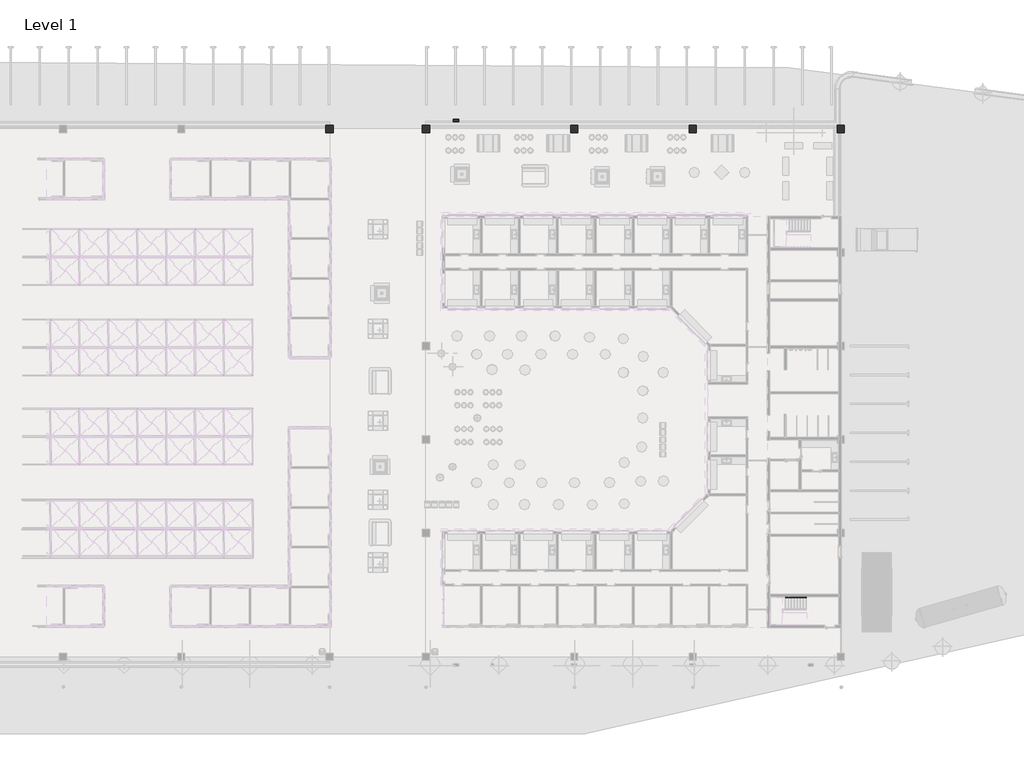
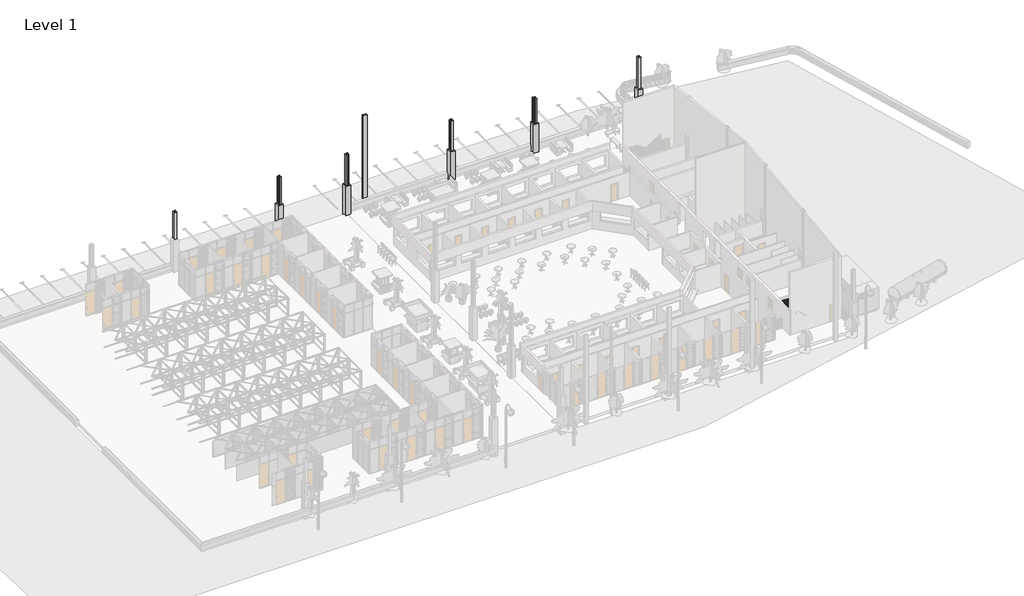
# One storey, part 27 of 32: 12 columns, 1 railing.
"""IFC4 building model written with IfcOpenShell, lengths in millimetres."""

from ifc_helpers import new_model, si_unit, point, frame, frame_2d, origin, place, context, project, spatial, polyline, circle_curve, trimmed, segment, composite_curve, outline, extrude, faceted_brep, transform, mapped, element, save
from components import columns_rectangular_450x450mm_c38d5eef

model = new_model("IFC4")

# Units and contexts
model_context = context("Model", 3, world=origin())
ifc_project = project(units=[si_unit("LENGTHUNIT", "METRE", prefix="MILLI")], contexts=[model_context])

# Site, building, storey
site = spatial("IfcSite", under=ifc_project)
building = spatial("IfcBuilding", under=site)
storey = spatial("IfcBuildingStorey", under=building, Name="Level 1", Elevation=2800.0)

# Columns
placement = place(None, origin())
element("IfcColumn", 1, ObjectType="Column Concrete-Square (M) : 600 x 600mm", at=placement, inside=storey, context=model_context, shape_type="SweptSolid", body=[
    extrude(outline(polyline([(2000.0, -12500.7705062), (6400.0, -12500.7705062), (6400.0, -13100.7705062), (2800.0, -13100.7705062), (2800.0, -12651.1260274), (2000.0, -12651.1260274), (2000.0, -12500.7705062)])), frame((0.0, 7694.0800404, 0.0), z_axis=(0.0, 1.0, 0.0), x_axis=(0.0, 0.0, 1.0)), (0.0, 0.0, 1.0), 600.0),
])
element("IfcColumn", 2, ObjectType="Column Concrete-Square (M) : 600 x 600mm", at=placement, inside=storey, context=model_context, shape_type="SweptSolid", body=[
    extrude(outline(polyline([(7694.0800404, 6400.0), (8294.0800404, 6400.0), (8294.0800404, 2800.0), (7994.0800404, 2800.0), (7994.0800404, 2000.0), (7694.0800404, 2000.0), (7694.0800404, 6400.0)])), frame((-25400.7705062, 0.0, 0.0), z_axis=(1.0, 0.0, 0.0), x_axis=(0.0, 1.0, 0.0)), (0.0, 0.0, 1.0), 600.0),
])
element("IfcColumn", 3, ObjectType="Column Concrete-Square (M) : 600 x 600mm", at=placement, inside=storey, context=model_context, shape_type="SweptSolid", body=[
    extrude(outline(polyline([(7694.0800404, 6400.0), (8294.0800404, 6400.0), (8294.0800404, 2800.0), (7994.0800404, 2800.0), (7994.0800404, 2000.0), (7694.0800404, 2000.0), (7694.0800404, 6400.0)])), frame((-35230.3056755, 0.0, 0.0), z_axis=(1.0, 0.0, 0.0), x_axis=(0.0, 1.0, 0.0)), (0.0, 0.0, 1.0), 600.0),
])
element("IfcColumn", 4, ObjectType="Column Concrete-Square (M) : 600 x 600mm", at=placement, inside=storey, context=model_context, shape_type="Brep", body=[
    faceted_brep([(-47530.3056755, 7694.0800404, 2000.0), (-47530.3056755, 8294.0800404, 2000.0), (-47230.3056755, 8294.0800404, 2000.0), (-47230.3056755, 7994.0800404, 2000.0), (-46930.3056755, 7994.0800404, 2000.0), (-46930.3056755, 7694.0800404, 2000.0), (-47530.3056755, 7694.0800404, 6400.0), (-47530.3056755, 8294.0800404, 6400.0), (-46930.3056755, 8294.0800404, 6400.0), (-46930.3056755, 8294.0800404, 2800.0), (-47230.3056755, 8294.0800404, 2800.0), (-46930.3056755, 7694.0800404, 6400.0), (-46930.3056755, 7994.0800404, 2800.0), (-47230.3056755, 7994.0800404, 2800.0)], [[[0, 1, 2, 3, 4, 5]], [[1, 0, 6, 7]], [[1, 7, 8, 9, 10, 2]], [[8, 11, 5, 4, 12, 9]], [[0, 5, 11, 6]], [[7, 6, 11, 8]], [[3, 13, 12, 4]], [[12, 13, 10, 9]], [[13, 3, 2, 10]]]),
])
element("IfcColumn", 5, ObjectType="Column Concrete-Square (M) : 600 x 600mm", at=placement, inside=storey, context=model_context, shape_type="Brep", body=[
    faceted_brep([(-54930.3056755, 8294.0800404, 2000.0), (-54930.3056755, 7694.0800404, 2000.0), (-55530.3056755, 7694.0800404, 2000.0), (-55530.3056755, 7978.5855015, 2000.0), (-55230.3056755, 7978.5855015, 2000.0), (-55230.3056755, 8294.0800404, 2000.0), (-54930.3056755, 8294.0800404, 6800.0), (-54930.3056755, 7694.0800404, 6800.0), (-55230.3056755, 8294.0800404, 2800.0), (-55530.3056755, 8294.0800404, 2800.0), (-55530.3056755, 8294.0800404, 6800.0), (-55530.3056755, 7694.0800404, 6800.0), (-55530.3056755, 7978.5855015, 2800.0), (-55230.3056755, 7978.5855015, 2800.0)], [[[0, 1, 2, 3, 4, 5]], [[1, 0, 6, 7]], [[6, 0, 5, 8, 9, 10]], [[11, 10, 9, 12, 3, 2]], [[2, 1, 7, 11]], [[7, 6, 10, 11]], [[12, 13, 4, 3]], [[13, 12, 9, 8]], [[4, 13, 8, 5]]]),
])
columns_rectangular_450x450mm_shape = columns_rectangular_450x450mm_c38d5eef(model_context)
element("IfcColumn", 6, ObjectType="Columns_Rectangular : 450x450mm", at=placement, inside=storey, context=model_context, shape_type="MappedRepresentation", body=[
    mapped(columns_rectangular_450x450mm_shape, transform((-44730.3056755, 8696.9943842, 0.0), x_axis=(0.0, -1.0, 0.0), y_axis=(1.0, 0.0, 0.0), z_axis=(0.0, 0.0, 1.0))),
])
element("IfcColumn", 7, ObjectType="UC-Universal Columns-Column : UC305x305x97", at=placement, inside=storey, context=model_context, shape_type="SweptSolid", body=[
    extrude(outline(composite_curve([segment(polyline([(-25253.4205062, 7840.1300404), (-25253.4205062, 7855.5300404), (-25120.9205062, 7855.5300404)]), True, "CONTINUOUS"), segment(trimmed(circle_curve(frame_2d((-25120.9205062, 7870.7300404)), 15.2), [point((-25120.9205062, 7855.5300404))], [point((-25105.7205062, 7870.7300404))], True, "CARTESIAN"), True, "CONTINUOUS"), segment(polyline([(-25105.7205062, 7870.7300404), (-25105.7205062, 8117.4300404)]), True, "CONTINUOUS"), segment(trimmed(circle_curve(frame_2d((-25120.9205062, 8117.4300404)), 15.2), [point((-25105.7205062, 8117.4300404))], [point((-25120.9205062, 8132.6300404))], True, "CARTESIAN"), True, "CONTINUOUS"), segment(polyline([(-25120.9205062, 8132.6300404), (-25253.4205062, 8132.6300404), (-25253.4205062, 8148.0300404), (-24948.1205062, 8148.0300404), (-24948.1205062, 8132.6300404), (-25080.6205062, 8132.6300404)]), True, "CONTINUOUS"), segment(trimmed(circle_curve(frame_2d((-25080.6205062, 8117.4300404)), 15.2), [point((-25080.6205062, 8132.6300404))], [point((-25095.8205062, 8117.4300404))], True, "CARTESIAN"), True, "CONTINUOUS"), segment(polyline([(-25095.8205062, 8117.4300404), (-25095.8205062, 7870.7300404)]), True, "CONTINUOUS"), segment(trimmed(circle_curve(frame_2d((-25080.6205062, 7870.7300404)), 15.2), [point((-25095.8205062, 7870.7300404))], [point((-25080.6205062, 7855.5300404))], True, "CARTESIAN"), True, "CONTINUOUS"), segment(polyline([(-25080.6205062, 7855.5300404), (-24948.1205062, 7855.5300404), (-24948.1205062, 7840.1300404), (-25253.4205062, 7840.1300404)]), True, "CONTINUOUS")], self_intersect=False)), frame((0.0, 0.0, 2800.0), z_axis=(0.0, 0.0, 1.0), x_axis=(1.0, 0.0, 0.0)), (0.0, 0.0, 1.0), 6681.2053511),
])
element("IfcColumn", 8, ObjectType="UC-Universal Columns-Column : UC305x305x97", at=placement, inside=storey, context=model_context, shape_type="SweptSolid", body=[
    extrude(outline(composite_curve([segment(polyline([(-35082.9556755, 7840.1300404), (-35082.9556755, 7855.5300404), (-34950.4556755, 7855.5300404)]), True, "CONTINUOUS"), segment(trimmed(circle_curve(frame_2d((-34950.4556755, 7870.7300404)), 15.2), [point((-34950.4556755, 7855.5300404))], [point((-34935.2556755, 7870.7300404))], True, "CARTESIAN"), True, "CONTINUOUS"), segment(polyline([(-34935.2556755, 7870.7300404), (-34935.2556755, 8117.4300404)]), True, "CONTINUOUS"), segment(trimmed(circle_curve(frame_2d((-34950.4556755, 8117.4300404)), 15.2), [point((-34935.2556755, 8117.4300404))], [point((-34950.4556755, 8132.6300404))], True, "CARTESIAN"), True, "CONTINUOUS"), segment(polyline([(-34950.4556755, 8132.6300404), (-35082.9556755, 8132.6300404), (-35082.9556755, 8148.0300404), (-34777.6556755, 8148.0300404), (-34777.6556755, 8132.6300404), (-34910.1556755, 8132.6300404)]), True, "CONTINUOUS"), segment(trimmed(circle_curve(frame_2d((-34910.1556755, 8117.4300404)), 15.2), [point((-34910.1556755, 8132.6300404))], [point((-34925.3556755, 8117.4300404))], True, "CARTESIAN"), True, "CONTINUOUS"), segment(polyline([(-34925.3556755, 8117.4300404), (-34925.3556755, 7870.7300404)]), True, "CONTINUOUS"), segment(trimmed(circle_curve(frame_2d((-34910.1556755, 7870.7300404)), 15.2), [point((-34925.3556755, 7870.7300404))], [point((-34910.1556755, 7855.5300404))], True, "CARTESIAN"), True, "CONTINUOUS"), segment(polyline([(-34910.1556755, 7855.5300404), (-34777.6556755, 7855.5300404), (-34777.6556755, 7840.1300404), (-35082.9556755, 7840.1300404)]), True, "CONTINUOUS")], self_intersect=False)), frame((0.0, 0.0, 2800.0), z_axis=(0.0, 0.0, 1.0), x_axis=(1.0, 0.0, 0.0)), (0.0, 0.0, 1.0), 7354.3836621),
])
element("IfcColumn", 9, ObjectType="UC-Universal Columns-Column : UC305x305x97", at=placement, inside=storey, context=model_context, shape_type="SweptSolid", body=[
    extrude(outline(composite_curve([segment(polyline([(-47382.9556755, 7840.1300404), (-47382.9556755, 7855.5300404), (-47250.4556755, 7855.5300404)]), True, "CONTINUOUS"), segment(trimmed(circle_curve(frame_2d((-47250.4556755, 7870.7300404)), 15.2), [point((-47250.4556755, 7855.5300404))], [point((-47235.2556755, 7870.7300404))], True, "CARTESIAN"), True, "CONTINUOUS"), segment(polyline([(-47235.2556755, 7870.7300404), (-47235.2556755, 8117.4300404)]), True, "CONTINUOUS"), segment(trimmed(circle_curve(frame_2d((-47250.4556755, 8117.4300404)), 15.2), [point((-47235.2556755, 8117.4300404))], [point((-47250.4556755, 8132.6300404))], True, "CARTESIAN"), True, "CONTINUOUS"), segment(polyline([(-47250.4556755, 8132.6300404), (-47382.9556755, 8132.6300404), (-47382.9556755, 8148.0300404), (-47077.6556755, 8148.0300404), (-47077.6556755, 8132.6300404), (-47210.1556755, 8132.6300404)]), True, "CONTINUOUS"), segment(trimmed(circle_curve(frame_2d((-47210.1556755, 8117.4300404)), 15.2), [point((-47210.1556755, 8132.6300404))], [point((-47225.3556755, 8117.4300404))], True, "CARTESIAN"), True, "CONTINUOUS"), segment(polyline([(-47225.3556755, 8117.4300404), (-47225.3556755, 7870.7300404)]), True, "CONTINUOUS"), segment(trimmed(circle_curve(frame_2d((-47210.1556755, 7870.7300404)), 15.2), [point((-47225.3556755, 7870.7300404))], [point((-47210.1556755, 7855.5300404))], True, "CARTESIAN"), True, "CONTINUOUS"), segment(polyline([(-47210.1556755, 7855.5300404), (-47077.6556755, 7855.5300404), (-47077.6556755, 7840.1300404), (-47382.9556755, 7840.1300404)]), True, "CONTINUOUS")], self_intersect=False)), frame((0.0, 0.0, 2800.0), z_axis=(0.0, 0.0, 1.0), x_axis=(1.0, 0.0, 0.0)), (0.0, 0.0, 1.0), 7433.6),
])
element("IfcColumn", 10, ObjectType="UC-Universal Columns-Column : UC305x305x97", at=placement, inside=storey, context=model_context, shape_type="SweptSolid", body=[
    extrude(outline(composite_curve([segment(polyline([(-12953.4205062, 7840.1300404), (-12953.4205062, 7855.5300404), (-12820.9205062, 7855.5300404)]), True, "CONTINUOUS"), segment(trimmed(circle_curve(frame_2d((-12820.9205062, 7870.7300404)), 15.2), [point((-12820.9205062, 7855.5300404))], [point((-12805.7205062, 7870.7300404))], True, "CARTESIAN"), True, "CONTINUOUS"), segment(polyline([(-12805.7205062, 7870.7300404), (-12805.7205062, 8117.4300404)]), True, "CONTINUOUS"), segment(trimmed(circle_curve(frame_2d((-12820.9205062, 8117.4300404)), 15.2), [point((-12805.7205062, 8117.4300404))], [point((-12820.9205062, 8132.6300404))], True, "CARTESIAN"), True, "CONTINUOUS"), segment(polyline([(-12820.9205062, 8132.6300404), (-12953.4205062, 8132.6300404), (-12953.4205062, 8148.0300404), (-12648.1205062, 8148.0300404), (-12648.1205062, 8132.6300404), (-12780.6205062, 8132.6300404)]), True, "CONTINUOUS"), segment(trimmed(circle_curve(frame_2d((-12780.6205062, 8117.4300404)), 15.2), [point((-12780.6205062, 8132.6300404))], [point((-12795.8205062, 8117.4300404))], True, "CARTESIAN"), True, "CONTINUOUS"), segment(polyline([(-12795.8205062, 8117.4300404), (-12795.8205062, 7870.7300404)]), True, "CONTINUOUS"), segment(trimmed(circle_curve(frame_2d((-12780.6205062, 7870.7300404)), 15.2), [point((-12795.8205062, 7870.7300404))], [point((-12780.6205062, 7855.5300404))], True, "CARTESIAN"), True, "CONTINUOUS"), segment(polyline([(-12780.6205062, 7855.5300404), (-12648.1205062, 7855.5300404), (-12648.1205062, 7840.1300404), (-12953.4205062, 7840.1300404)]), True, "CONTINUOUS")], self_intersect=False)), frame((0.0, 0.0, 2800.0), z_axis=(0.0, 0.0, 1.0), x_axis=(1.0, 0.0, 0.0)), (0.0, 0.0, 1.0), 7500.0),
])
element("IfcColumn", 11, ObjectType="UC-Universal Columns-Column : UC305x305x97", at=placement, inside=storey, context=model_context, shape_type="SweptSolid", body=[
    extrude(outline(composite_curve([segment(polyline([(-67377.6556755, 7840.1300404), (-67682.9556755, 7840.1300404), (-67682.9556755, 7855.5300404), (-67550.4556755, 7855.5300404)]), True, "CONTINUOUS"), segment(trimmed(circle_curve(frame_2d((-67550.4556755, 7870.7300404)), 15.2), [point((-67550.4556755, 7855.5300404))], [point((-67535.2556755, 7870.7300404))], True, "CARTESIAN"), True, "CONTINUOUS"), segment(polyline([(-67535.2556755, 7870.7300404), (-67535.2556755, 8117.4300404)]), True, "CONTINUOUS"), segment(trimmed(circle_curve(frame_2d((-67550.4556755, 8117.4300404)), 15.2), [point((-67535.2556755, 8117.4300404))], [point((-67550.4556755, 8132.6300404))], True, "CARTESIAN"), True, "CONTINUOUS"), segment(polyline([(-67550.4556755, 8132.6300404), (-67682.9556755, 8132.6300404), (-67682.9556755, 8148.0300404), (-67377.6556755, 8148.0300404), (-67377.6556755, 8132.6300404), (-67510.1556755, 8132.6300404)]), True, "CONTINUOUS"), segment(trimmed(circle_curve(frame_2d((-67510.1556755, 8117.4300404)), 15.2), [point((-67510.1556755, 8132.6300404))], [point((-67525.3556755, 8117.4300404))], True, "CARTESIAN"), True, "CONTINUOUS"), segment(polyline([(-67525.3556755, 8117.4300404), (-67525.3556755, 7870.7300404)]), True, "CONTINUOUS"), segment(trimmed(circle_curve(frame_2d((-67510.1556755, 7870.7300404)), 15.2), [point((-67525.3556755, 7870.7300404))], [point((-67510.1556755, 7855.5300404))], True, "CARTESIAN"), True, "CONTINUOUS"), segment(polyline([(-67510.1556755, 7855.5300404), (-67377.6556755, 7855.5300404), (-67377.6556755, 7840.1300404)]), True, "CONTINUOUS")], self_intersect=False)), frame((0.0, 0.0, 2800.0), z_axis=(0.0, 0.0, 1.0), x_axis=(1.0, 0.0, 0.0)), (0.0, 0.0, 1.0), 7354.3836621),
])
element("IfcColumn", 12, ObjectType="UC-Universal Columns-Column : UC305x305x97", at=placement, inside=storey, context=model_context, shape_type="SweptSolid", body=[
    extrude(outline(composite_curve([segment(polyline([(-55077.6556755, 7840.1300404), (-55382.9556755, 7840.1300404), (-55382.9556755, 7855.5300404), (-55250.4556755, 7855.5300404)]), True, "CONTINUOUS"), segment(trimmed(circle_curve(frame_2d((-55250.4556755, 7870.7300404)), 15.2), [point((-55250.4556755, 7855.5300404))], [point((-55235.2556755, 7870.7300404))], True, "CARTESIAN"), True, "CONTINUOUS"), segment(polyline([(-55235.2556755, 7870.7300404), (-55235.2556755, 8117.4300404)]), True, "CONTINUOUS"), segment(trimmed(circle_curve(frame_2d((-55250.4556755, 8117.4300404)), 15.2), [point((-55235.2556755, 8117.4300404))], [point((-55250.4556755, 8132.6300404))], True, "CARTESIAN"), True, "CONTINUOUS"), segment(polyline([(-55250.4556755, 8132.6300404), (-55382.9556755, 8132.6300404), (-55382.9556755, 8148.0300404), (-55077.6556755, 8148.0300404), (-55077.6556755, 8132.6300404), (-55210.1556755, 8132.6300404)]), True, "CONTINUOUS"), segment(trimmed(circle_curve(frame_2d((-55210.1556755, 8117.4300404)), 15.2), [point((-55210.1556755, 8132.6300404))], [point((-55225.3556755, 8117.4300404))], True, "CARTESIAN"), True, "CONTINUOUS"), segment(polyline([(-55225.3556755, 8117.4300404), (-55225.3556755, 7870.7300404)]), True, "CONTINUOUS"), segment(trimmed(circle_curve(frame_2d((-55210.1556755, 7870.7300404)), 15.2), [point((-55225.3556755, 7870.7300404))], [point((-55210.1556755, 7855.5300404))], True, "CARTESIAN"), True, "CONTINUOUS"), segment(polyline([(-55210.1556755, 7855.5300404), (-55077.6556755, 7855.5300404), (-55077.6556755, 7840.1300404)]), True, "CONTINUOUS")], self_intersect=False)), frame((0.0, 0.0, 2800.0), z_axis=(0.0, 0.0, 1.0), x_axis=(1.0, 0.0, 0.0)), (0.0, 0.0, 1.0), 7433.6),
])

# Railing
element("IfcRailing", 13, ObjectType="1100mm", at=placement, inside=storey, context=model_context, shape_type="SolidModel", body=[
    faceted_brep([(-15660.7705062, -30916.1565305, 4066.6666667), (-15660.7705062, -30916.1565305, 4006.5741454), (-15660.7705062, -30866.1565305, 4006.5741454), (-15660.7705062, -30866.1565305, 4066.6666667), (-17660.7705062, -30916.1565305, 5400.0), (-17675.9092881, -30916.1565305, 5350.0), (-17675.9092881, -30866.1565305, 5350.0), (-17660.7705062, -30866.1565305, 5400.0), (-18610.3705062, -30916.1565305, 5400.0), (-18610.3705062, -30916.1565305, 5350.0), (-18660.3705062, -30866.1565305, 5350.0), (-18660.3705062, -30866.1565305, 5400.0), (-18610.3705062, -33115.3565305, 5400.0), (-18610.3705062, -33115.3565305, 5350.0), (-18660.3705062, -33165.3565305, 5350.0), (-18660.3705062, -33165.3565305, 5400.0), (-17910.7705062, -33115.3565305, 5400.0), (-17895.6317243, -33115.3565305, 5350.0), (-17895.6317243, -33165.3565305, 5350.0), (-17910.7705062, -33165.3565305, 5400.0), (-17660.7705062, -33115.3565305, 5566.6666667), (-17633.0354964, -33115.3565305, 5525.0641519), (-17633.0354964, -33165.3565305, 5525.0641519), (-17660.7705062, -33165.3565305, 5566.6666667), (-15660.7705062, -33115.3565305, 6900.0), (-15660.7705062, -33165.3565305, 6900.0), (-15660.7705062, -33165.3565305, 6839.9074787), (-15660.7705062, -33115.3565305, 6839.9074787)], [[[0, 1, 2, 3]], [[1, 0, 4, 5]], [[2, 1, 5, 6]], [[3, 2, 6, 7]], [[0, 3, 7, 4]], [[5, 4, 8, 9]], [[6, 5, 9, 10]], [[7, 6, 10, 11]], [[4, 7, 11, 8]], [[9, 8, 12, 13]], [[10, 9, 13, 14]], [[11, 10, 14, 15]], [[8, 11, 15, 12]], [[13, 12, 16, 17]], [[14, 13, 17, 18]], [[15, 14, 18, 19]], [[12, 15, 19, 16]], [[17, 16, 20, 21]], [[18, 17, 21, 22]], [[19, 18, 22, 23]], [[16, 19, 23, 20]], [[24, 25, 26, 27]], [[21, 20, 24, 27]], [[22, 21, 27, 26]], [[23, 22, 26, 25]], [[20, 23, 25, 24]]]),
    extrude(outline(polyline([(6789.9074787, -15735.7705062), (5633.3333333, -15735.7705062), (5633.3333333, -15710.7705062), (6806.5741454, -15710.7705062), (6789.9074787, -15735.7705062)])), frame((0.0, -33152.8565305, 0.0), z_axis=(0.0, 1.0, 0.0), x_axis=(0.0, 0.0, 1.0)), (0.0, 0.0, 1.0), 25.0),
    extrude(outline(polyline([(6706.5741454, -15860.7705062), (5633.3333333, -15860.7705062), (5633.3333333, -15835.7705062), (6723.2408121, -15835.7705062), (6706.5741454, -15860.7705062)])), frame((0.0, -33152.8565305, 0.0), z_axis=(0.0, 1.0, 0.0), x_axis=(0.0, 0.0, 1.0)), (0.0, 0.0, 1.0), 25.0),
    extrude(outline(polyline([(6623.2408121, -15985.7705062), (5466.6666667, -15985.7705062), (5466.6666667, -15960.7705062), (6639.9074787, -15960.7705062), (6623.2408121, -15985.7705062)])), frame((0.0, -33152.8565305, 0.0), z_axis=(0.0, 1.0, 0.0), x_axis=(0.0, 0.0, 1.0)), (0.0, 0.0, 1.0), 25.0),
    extrude(outline(polyline([(6539.9074787, -16110.7705062), (5466.6666667, -16110.7705062), (5466.6666667, -16085.7705062), (6556.5741454, -16085.7705062), (6539.9074787, -16110.7705062)])), frame((0.0, -33152.8565305, 0.0), z_axis=(0.0, 1.0, 0.0), x_axis=(0.0, 0.0, 1.0)), (0.0, 0.0, 1.0), 25.0),
    extrude(outline(polyline([(6456.5741454, -16235.7705062), (5300.0, -16235.7705062), (5300.0, -16210.7705062), (6473.2408121, -16210.7705062), (6456.5741454, -16235.7705062)])), frame((0.0, -33152.8565305, 0.0), z_axis=(0.0, 1.0, 0.0), x_axis=(0.0, 0.0, 1.0)), (0.0, 0.0, 1.0), 25.0),
    extrude(outline(polyline([(6373.2408121, -16360.7705062), (5300.0, -16360.7705062), (5300.0, -16335.7705062), (6389.9074787, -16335.7705062), (6373.2408121, -16360.7705062)])), frame((0.0, -33152.8565305, 0.0), z_axis=(0.0, 1.0, 0.0), x_axis=(0.0, 0.0, 1.0)), (0.0, 0.0, 1.0), 25.0),
    extrude(outline(polyline([(6289.9074787, -16485.7705062), (5133.3333333, -16485.7705062), (5133.3333333, -16460.7705062), (6306.5741454, -16460.7705062), (6289.9074787, -16485.7705062)])), frame((0.0, -33152.8565305, 0.0), z_axis=(0.0, 1.0, 0.0), x_axis=(0.0, 0.0, 1.0)), (0.0, 0.0, 1.0), 25.0),
    extrude(outline(polyline([(6206.5741454, -16610.7705062), (5133.3333333, -16610.7705062), (5133.3333333, -16585.7705062), (6223.2408121, -16585.7705062), (6206.5741454, -16610.7705062)])), frame((0.0, -33152.8565305, 0.0), z_axis=(0.0, 1.0, 0.0), x_axis=(0.0, 0.0, 1.0)), (0.0, 0.0, 1.0), 25.0),
    extrude(outline(polyline([(6123.2408121, -16735.7705062), (4966.6666667, -16735.7705062), (4966.6666667, -16710.7705062), (6139.9074787, -16710.7705062), (6123.2408121, -16735.7705062)])), frame((0.0, -33152.8565305, 0.0), z_axis=(0.0, 1.0, 0.0), x_axis=(0.0, 0.0, 1.0)), (0.0, 0.0, 1.0), 25.0),
    extrude(outline(polyline([(6039.9074787, -16860.7705062), (4966.6666667, -16860.7705062), (4966.6666667, -16835.7705062), (6056.5741454, -16835.7705062), (6039.9074787, -16860.7705062)])), frame((0.0, -33152.8565305, 0.0), z_axis=(0.0, 1.0, 0.0), x_axis=(0.0, 0.0, 1.0)), (0.0, 0.0, 1.0), 25.0),
    extrude(outline(polyline([(5956.5741454, -16985.7705062), (4800.0, -16985.7705062), (4800.0, -16960.7705062), (5973.2408121, -16960.7705062), (5956.5741454, -16985.7705062)])), frame((0.0, -33152.8565305, 0.0), z_axis=(0.0, 1.0, 0.0), x_axis=(0.0, 0.0, 1.0)), (0.0, 0.0, 1.0), 25.0),
    extrude(outline(polyline([(5873.2408121, -17110.7705062), (4800.0, -17110.7705062), (4800.0, -17085.7705062), (5889.9074787, -17085.7705062), (5873.2408121, -17110.7705062)])), frame((0.0, -33152.8565305, 0.0), z_axis=(0.0, 1.0, 0.0), x_axis=(0.0, 0.0, 1.0)), (0.0, 0.0, 1.0), 25.0),
    extrude(outline(polyline([(5789.9074787, -17235.7705062), (4633.3333333, -17235.7705062), (4633.3333333, -17210.7705062), (5806.5741454, -17210.7705062), (5789.9074787, -17235.7705062)])), frame((0.0, -33152.8565305, 0.0), z_axis=(0.0, 1.0, 0.0), x_axis=(0.0, 0.0, 1.0)), (0.0, 0.0, 1.0), 25.0),
    extrude(outline(polyline([(5706.5741454, -17360.7705062), (4633.3333333, -17360.7705062), (4633.3333333, -17335.7705062), (5723.2408121, -17335.7705062), (5706.5741454, -17360.7705062)])), frame((0.0, -33152.8565305, 0.0), z_axis=(0.0, 1.0, 0.0), x_axis=(0.0, 0.0, 1.0)), (0.0, 0.0, 1.0), 25.0),
    extrude(outline(polyline([(5623.2408121, -17485.7705062), (4466.6666667, -17485.7705062), (4466.6666667, -17460.7705062), (5639.9074787, -17460.7705062), (5623.2408121, -17485.7705062)])), frame((0.0, -33152.8565305, 0.0), z_axis=(0.0, 1.0, 0.0), x_axis=(0.0, 0.0, 1.0)), (0.0, 0.0, 1.0), 25.0),
    extrude(outline(polyline([(5539.9074787, -17610.7705062), (4466.6666667, -17610.7705062), (4466.6666667, -17585.7705062), (5556.5741454, -17585.7705062), (5539.9074787, -17610.7705062)])), frame((0.0, -33152.8565305, 0.0), z_axis=(0.0, 1.0, 0.0), x_axis=(0.0, 0.0, 1.0)), (0.0, 0.0, 1.0), 25.0),
    extrude(outline(polyline([(5473.5074787, -17710.3705062), (4300.0, -17710.3705062), (4300.0, -17685.3705062), (5490.1741454, -17685.3705062), (5473.5074787, -17710.3705062)])), frame((0.0, -33152.8565305, 0.0), z_axis=(0.0, 1.0, 0.0), x_axis=(0.0, 0.0, 1.0)), (0.0, 0.0, 1.0), 25.0),
    extrude(outline(polyline([(5390.1741454, -17835.3705062), (4300.0, -17835.3705062), (4300.0, -17810.3705062), (5406.8408121, -17810.3705062), (5390.1741454, -17835.3705062)])), frame((0.0, -33152.8565305, 0.0), z_axis=(0.0, 1.0, 0.0), x_axis=(0.0, 0.0, 1.0)), (0.0, 0.0, 1.0), 25.0),
    extrude(outline(polyline([(-17960.3705062, -33152.8565305), (-17960.3705062, -33127.8565305), (-17935.3705062, -33127.8565305), (-17935.3705062, -33152.8565305), (-17960.3705062, -33152.8565305)])), frame((0.0, 0.0, 4300.0), z_axis=(0.0, 0.0, 1.0), x_axis=(1.0, 0.0, 0.0)), (0.0, 0.0, 1.0), 1050.0),
    extrude(outline(polyline([(-18085.3705062, -33152.8565305), (-18085.3705062, -33127.8565305), (-18060.3705062, -33127.8565305), (-18060.3705062, -33152.8565305), (-18085.3705062, -33152.8565305)])), frame((0.0, 0.0, 4300.0), z_axis=(0.0, 0.0, 1.0), x_axis=(1.0, 0.0, 0.0)), (0.0, 0.0, 1.0), 1050.0),
    extrude(outline(polyline([(-18210.3705062, -33152.8565305), (-18210.3705062, -33127.8565305), (-18185.3705062, -33127.8565305), (-18185.3705062, -33152.8565305), (-18210.3705062, -33152.8565305)])), frame((0.0, 0.0, 4300.0), z_axis=(0.0, 0.0, 1.0), x_axis=(1.0, 0.0, 0.0)), (0.0, 0.0, 1.0), 1050.0),
    extrude(outline(polyline([(-18335.3705062, -33152.8565305), (-18335.3705062, -33127.8565305), (-18310.3705062, -33127.8565305), (-18310.3705062, -33152.8565305), (-18335.3705062, -33152.8565305)])), frame((0.0, 0.0, 4300.0), z_axis=(0.0, 0.0, 1.0), x_axis=(1.0, 0.0, 0.0)), (0.0, 0.0, 1.0), 1050.0),
    extrude(outline(polyline([(-18460.3705062, -33152.8565305), (-18460.3705062, -33127.8565305), (-18435.3705062, -33127.8565305), (-18435.3705062, -33152.8565305), (-18460.3705062, -33152.8565305)])), frame((0.0, 0.0, 4300.0), z_axis=(0.0, 0.0, 1.0), x_axis=(1.0, 0.0, 0.0)), (0.0, 0.0, 1.0), 1050.0),
    extrude(outline(polyline([(-18585.3705062, -33152.8565305), (-18585.3705062, -33127.8565305), (-18560.3705062, -33127.8565305), (-18560.3705062, -33152.8565305), (-18585.3705062, -33152.8565305)])), frame((0.0, 0.0, 4300.0), z_axis=(0.0, 0.0, 1.0), x_axis=(1.0, 0.0, 0.0)), (0.0, 0.0, 1.0), 1050.0),
    extrude(outline(polyline([(-18647.8705062, -33066.1565305), (-18622.8705062, -33066.1565305), (-18622.8705062, -33091.1565305), (-18647.8705062, -33091.1565305), (-18647.8705062, -33066.1565305)])), frame((0.0, 0.0, 4300.0), z_axis=(0.0, 0.0, 1.0), x_axis=(1.0, 0.0, 0.0)), (0.0, 0.0, 1.0), 1050.0),
    extrude(outline(polyline([(-18647.8705062, -32941.1565305), (-18622.8705062, -32941.1565305), (-18622.8705062, -32966.1565305), (-18647.8705062, -32966.1565305), (-18647.8705062, -32941.1565305)])), frame((0.0, 0.0, 4300.0), z_axis=(0.0, 0.0, 1.0), x_axis=(1.0, 0.0, 0.0)), (0.0, 0.0, 1.0), 1050.0),
    extrude(outline(polyline([(-18647.8705062, -32816.1565305), (-18622.8705062, -32816.1565305), (-18622.8705062, -32841.1565305), (-18647.8705062, -32841.1565305), (-18647.8705062, -32816.1565305)])), frame((0.0, 0.0, 4300.0), z_axis=(0.0, 0.0, 1.0), x_axis=(1.0, 0.0, 0.0)), (0.0, 0.0, 1.0), 1050.0),
    extrude(outline(polyline([(-18647.8705062, -32691.1565305), (-18622.8705062, -32691.1565305), (-18622.8705062, -32716.1565305), (-18647.8705062, -32716.1565305), (-18647.8705062, -32691.1565305)])), frame((0.0, 0.0, 4300.0), z_axis=(0.0, 0.0, 1.0), x_axis=(1.0, 0.0, 0.0)), (0.0, 0.0, 1.0), 1050.0),
    extrude(outline(polyline([(-18647.8705062, -32566.1565305), (-18622.8705062, -32566.1565305), (-18622.8705062, -32591.1565305), (-18647.8705062, -32591.1565305), (-18647.8705062, -32566.1565305)])), frame((0.0, 0.0, 4300.0), z_axis=(0.0, 0.0, 1.0), x_axis=(1.0, 0.0, 0.0)), (0.0, 0.0, 1.0), 1050.0),
    extrude(outline(polyline([(-18647.8705062, -32441.1565305), (-18622.8705062, -32441.1565305), (-18622.8705062, -32466.1565305), (-18647.8705062, -32466.1565305), (-18647.8705062, -32441.1565305)])), frame((0.0, 0.0, 4300.0), z_axis=(0.0, 0.0, 1.0), x_axis=(1.0, 0.0, 0.0)), (0.0, 0.0, 1.0), 1050.0),
    extrude(outline(polyline([(-18647.8705062, -32316.1565305), (-18622.8705062, -32316.1565305), (-18622.8705062, -32341.1565305), (-18647.8705062, -32341.1565305), (-18647.8705062, -32316.1565305)])), frame((0.0, 0.0, 4300.0), z_axis=(0.0, 0.0, 1.0), x_axis=(1.0, 0.0, 0.0)), (0.0, 0.0, 1.0), 1050.0),
    extrude(outline(polyline([(-18647.8705062, -32191.1565305), (-18622.8705062, -32191.1565305), (-18622.8705062, -32216.1565305), (-18647.8705062, -32216.1565305), (-18647.8705062, -32191.1565305)])), frame((0.0, 0.0, 4300.0), z_axis=(0.0, 0.0, 1.0), x_axis=(1.0, 0.0, 0.0)), (0.0, 0.0, 1.0), 1050.0),
    extrude(outline(polyline([(-18647.8705062, -32066.1565305), (-18622.8705062, -32066.1565305), (-18622.8705062, -32091.1565305), (-18647.8705062, -32091.1565305), (-18647.8705062, -32066.1565305)])), frame((0.0, 0.0, 4300.0), z_axis=(0.0, 0.0, 1.0), x_axis=(1.0, 0.0, 0.0)), (0.0, 0.0, 1.0), 1050.0),
    extrude(outline(polyline([(-18647.8705062, -31941.1565305), (-18622.8705062, -31941.1565305), (-18622.8705062, -31966.1565305), (-18647.8705062, -31966.1565305), (-18647.8705062, -31941.1565305)])), frame((0.0, 0.0, 4300.0), z_axis=(0.0, 0.0, 1.0), x_axis=(1.0, 0.0, 0.0)), (0.0, 0.0, 1.0), 1050.0),
    extrude(outline(polyline([(-18647.8705062, -31816.1565305), (-18622.8705062, -31816.1565305), (-18622.8705062, -31841.1565305), (-18647.8705062, -31841.1565305), (-18647.8705062, -31816.1565305)])), frame((0.0, 0.0, 4300.0), z_axis=(0.0, 0.0, 1.0), x_axis=(1.0, 0.0, 0.0)), (0.0, 0.0, 1.0), 1050.0),
    extrude(outline(polyline([(-18647.8705062, -31691.1565305), (-18622.8705062, -31691.1565305), (-18622.8705062, -31716.1565305), (-18647.8705062, -31716.1565305), (-18647.8705062, -31691.1565305)])), frame((0.0, 0.0, 4300.0), z_axis=(0.0, 0.0, 1.0), x_axis=(1.0, 0.0, 0.0)), (0.0, 0.0, 1.0), 1050.0),
    extrude(outline(polyline([(-18647.8705062, -31566.1565305), (-18622.8705062, -31566.1565305), (-18622.8705062, -31591.1565305), (-18647.8705062, -31591.1565305), (-18647.8705062, -31566.1565305)])), frame((0.0, 0.0, 4300.0), z_axis=(0.0, 0.0, 1.0), x_axis=(1.0, 0.0, 0.0)), (0.0, 0.0, 1.0), 1050.0),
    extrude(outline(polyline([(-18647.8705062, -31441.1565305), (-18622.8705062, -31441.1565305), (-18622.8705062, -31466.1565305), (-18647.8705062, -31466.1565305), (-18647.8705062, -31441.1565305)])), frame((0.0, 0.0, 4300.0), z_axis=(0.0, 0.0, 1.0), x_axis=(1.0, 0.0, 0.0)), (0.0, 0.0, 1.0), 1050.0),
    extrude(outline(polyline([(-18647.8705062, -31316.1565305), (-18622.8705062, -31316.1565305), (-18622.8705062, -31341.1565305), (-18647.8705062, -31341.1565305), (-18647.8705062, -31316.1565305)])), frame((0.0, 0.0, 4300.0), z_axis=(0.0, 0.0, 1.0), x_axis=(1.0, 0.0, 0.0)), (0.0, 0.0, 1.0), 1050.0),
    extrude(outline(polyline([(-18647.8705062, -31191.1565305), (-18622.8705062, -31191.1565305), (-18622.8705062, -31216.1565305), (-18647.8705062, -31216.1565305), (-18647.8705062, -31191.1565305)])), frame((0.0, 0.0, 4300.0), z_axis=(0.0, 0.0, 1.0), x_axis=(1.0, 0.0, 0.0)), (0.0, 0.0, 1.0), 1050.0),
    extrude(outline(polyline([(-18647.8705062, -31066.1565305), (-18622.8705062, -31066.1565305), (-18622.8705062, -31091.1565305), (-18647.8705062, -31091.1565305), (-18647.8705062, -31066.1565305)])), frame((0.0, 0.0, 4300.0), z_axis=(0.0, 0.0, 1.0), x_axis=(1.0, 0.0, 0.0)), (0.0, 0.0, 1.0), 1050.0),
    extrude(outline(polyline([(-18647.8705062, -30941.1565305), (-18622.8705062, -30941.1565305), (-18622.8705062, -30966.1565305), (-18647.8705062, -30966.1565305), (-18647.8705062, -30941.1565305)])), frame((0.0, 0.0, 4300.0), z_axis=(0.0, 0.0, 1.0), x_axis=(1.0, 0.0, 0.0)), (0.0, 0.0, 1.0), 1050.0),
    extrude(outline(polyline([(-18585.7705062, -30878.6565305), (-18585.7705062, -30903.6565305), (-18610.7705062, -30903.6565305), (-18610.7705062, -30878.6565305), (-18585.7705062, -30878.6565305)])), frame((0.0, 0.0, 4300.0), z_axis=(0.0, 0.0, 1.0), x_axis=(1.0, 0.0, 0.0)), (0.0, 0.0, 1.0), 1050.0),
    extrude(outline(polyline([(-18460.7705062, -30878.6565305), (-18460.7705062, -30903.6565305), (-18485.7705062, -30903.6565305), (-18485.7705062, -30878.6565305), (-18460.7705062, -30878.6565305)])), frame((0.0, 0.0, 4300.0), z_axis=(0.0, 0.0, 1.0), x_axis=(1.0, 0.0, 0.0)), (0.0, 0.0, 1.0), 1050.0),
    extrude(outline(polyline([(-18335.7705062, -30878.6565305), (-18335.7705062, -30903.6565305), (-18360.7705062, -30903.6565305), (-18360.7705062, -30878.6565305), (-18335.7705062, -30878.6565305)])), frame((0.0, 0.0, 4300.0), z_axis=(0.0, 0.0, 1.0), x_axis=(1.0, 0.0, 0.0)), (0.0, 0.0, 1.0), 1050.0),
    extrude(outline(polyline([(-18210.7705062, -30878.6565305), (-18210.7705062, -30903.6565305), (-18235.7705062, -30903.6565305), (-18235.7705062, -30878.6565305), (-18210.7705062, -30878.6565305)])), frame((0.0, 0.0, 4300.0), z_axis=(0.0, 0.0, 1.0), x_axis=(1.0, 0.0, 0.0)), (0.0, 0.0, 1.0), 1050.0),
    extrude(outline(polyline([(-18085.7705062, -30878.6565305), (-18085.7705062, -30903.6565305), (-18110.7705062, -30903.6565305), (-18110.7705062, -30878.6565305), (-18085.7705062, -30878.6565305)])), frame((0.0, 0.0, 4300.0), z_axis=(0.0, 0.0, 1.0), x_axis=(1.0, 0.0, 0.0)), (0.0, 0.0, 1.0), 1050.0),
    extrude(outline(polyline([(-17960.7705062, -30878.6565305), (-17960.7705062, -30903.6565305), (-17985.7705062, -30903.6565305), (-17985.7705062, -30878.6565305), (-17960.7705062, -30878.6565305)])), frame((0.0, 0.0, 4300.0), z_axis=(0.0, 0.0, 1.0), x_axis=(1.0, 0.0, 0.0)), (0.0, 0.0, 1.0), 1050.0),
    extrude(outline(polyline([(-17835.7705062, -30878.6565305), (-17835.7705062, -30903.6565305), (-17860.7705062, -30903.6565305), (-17860.7705062, -30878.6565305), (-17835.7705062, -30878.6565305)])), frame((0.0, 0.0, 4300.0), z_axis=(0.0, 0.0, 1.0), x_axis=(1.0, 0.0, 0.0)), (0.0, 0.0, 1.0), 1050.0),
    extrude(outline(polyline([(-17710.7705062, -30878.6565305), (-17710.7705062, -30903.6565305), (-17735.7705062, -30903.6565305), (-17735.7705062, -30878.6565305), (-17710.7705062, -30878.6565305)])), frame((0.0, 0.0, 4300.0), z_axis=(0.0, 0.0, 1.0), x_axis=(1.0, 0.0, 0.0)), (0.0, 0.0, 1.0), 1050.0),
    extrude(outline(polyline([(4133.3333333, -17585.7705062), (5289.9074787, -17585.7705062), (5306.5741454, -17610.7705062), (4133.3333333, -17610.7705062), (4133.3333333, -17585.7705062)])), frame((0.0, -30903.6565305, 0.0), z_axis=(0.0, 1.0, 0.0), x_axis=(0.0, 0.0, 1.0)), (0.0, 0.0, 1.0), 25.0),
    extrude(outline(polyline([(4133.3333333, -17460.7705062), (5206.5741454, -17460.7705062), (5223.2408121, -17485.7705062), (4133.3333333, -17485.7705062), (4133.3333333, -17460.7705062)])), frame((0.0, -30903.6565305, 0.0), z_axis=(0.0, 1.0, 0.0), x_axis=(0.0, 0.0, 1.0)), (0.0, 0.0, 1.0), 25.0),
    extrude(outline(polyline([(3966.6666667, -17335.7705062), (5123.2408121, -17335.7705062), (5139.9074787, -17360.7705062), (3966.6666667, -17360.7705062), (3966.6666667, -17335.7705062)])), frame((0.0, -30903.6565305, 0.0), z_axis=(0.0, 1.0, 0.0), x_axis=(0.0, 0.0, 1.0)), (0.0, 0.0, 1.0), 25.0),
    extrude(outline(polyline([(3966.6666667, -17210.7705062), (5039.9074787, -17210.7705062), (5056.5741454, -17235.7705062), (3966.6666667, -17235.7705062), (3966.6666667, -17210.7705062)])), frame((0.0, -30903.6565305, 0.0), z_axis=(0.0, 1.0, 0.0), x_axis=(0.0, 0.0, 1.0)), (0.0, 0.0, 1.0), 25.0),
    extrude(outline(polyline([(3800.0, -17085.7705062), (4956.5741454, -17085.7705062), (4973.2408121, -17110.7705062), (3800.0, -17110.7705062), (3800.0, -17085.7705062)])), frame((0.0, -30903.6565305, 0.0), z_axis=(0.0, 1.0, 0.0), x_axis=(0.0, 0.0, 1.0)), (0.0, 0.0, 1.0), 25.0),
    extrude(outline(polyline([(3800.0, -16960.7705062), (4873.2408121, -16960.7705062), (4889.9074787, -16985.7705062), (3800.0, -16985.7705062), (3800.0, -16960.7705062)])), frame((0.0, -30903.6565305, 0.0), z_axis=(0.0, 1.0, 0.0), x_axis=(0.0, 0.0, 1.0)), (0.0, 0.0, 1.0), 25.0),
    extrude(outline(polyline([(3633.3333333, -16835.7705062), (4789.9074787, -16835.7705062), (4806.5741454, -16860.7705062), (3633.3333333, -16860.7705062), (3633.3333333, -16835.7705062)])), frame((0.0, -30903.6565305, 0.0), z_axis=(0.0, 1.0, 0.0), x_axis=(0.0, 0.0, 1.0)), (0.0, 0.0, 1.0), 25.0),
    extrude(outline(polyline([(3633.3333333, -16710.7705062), (4706.5741454, -16710.7705062), (4723.2408121, -16735.7705062), (3633.3333333, -16735.7705062), (3633.3333333, -16710.7705062)])), frame((0.0, -30903.6565305, 0.0), z_axis=(0.0, 1.0, 0.0), x_axis=(0.0, 0.0, 1.0)), (0.0, 0.0, 1.0), 25.0),
    extrude(outline(polyline([(3466.6666667, -16585.7705062), (4623.2408121, -16585.7705062), (4639.9074787, -16610.7705062), (3466.6666667, -16610.7705062), (3466.6666667, -16585.7705062)])), frame((0.0, -30903.6565305, 0.0), z_axis=(0.0, 1.0, 0.0), x_axis=(0.0, 0.0, 1.0)), (0.0, 0.0, 1.0), 25.0),
    extrude(outline(polyline([(3466.6666667, -16460.7705062), (4539.9074787, -16460.7705062), (4556.5741454, -16485.7705062), (3466.6666667, -16485.7705062), (3466.6666667, -16460.7705062)])), frame((0.0, -30903.6565305, 0.0), z_axis=(0.0, 1.0, 0.0), x_axis=(0.0, 0.0, 1.0)), (0.0, 0.0, 1.0), 25.0),
    extrude(outline(polyline([(3300.0, -16335.7705062), (4456.5741454, -16335.7705062), (4473.2408121, -16360.7705062), (3300.0, -16360.7705062), (3300.0, -16335.7705062)])), frame((0.0, -30903.6565305, 0.0), z_axis=(0.0, 1.0, 0.0), x_axis=(0.0, 0.0, 1.0)), (0.0, 0.0, 1.0), 25.0),
    extrude(outline(polyline([(3300.0, -16210.7705062), (4373.2408121, -16210.7705062), (4389.9074787, -16235.7705062), (3300.0, -16235.7705062), (3300.0, -16210.7705062)])), frame((0.0, -30903.6565305, 0.0), z_axis=(0.0, 1.0, 0.0), x_axis=(0.0, 0.0, 1.0)), (0.0, 0.0, 1.0), 25.0),
    extrude(outline(polyline([(3133.3333333, -16085.7705062), (4289.9074787, -16085.7705062), (4306.5741454, -16110.7705062), (3133.3333333, -16110.7705062), (3133.3333333, -16085.7705062)])), frame((0.0, -30903.6565305, 0.0), z_axis=(0.0, 1.0, 0.0), x_axis=(0.0, 0.0, 1.0)), (0.0, 0.0, 1.0), 25.0),
    extrude(outline(polyline([(3133.3333333, -15960.7705062), (4206.5741454, -15960.7705062), (4223.2408121, -15985.7705062), (3133.3333333, -15985.7705062), (3133.3333333, -15960.7705062)])), frame((0.0, -30903.6565305, 0.0), z_axis=(0.0, 1.0, 0.0), x_axis=(0.0, 0.0, 1.0)), (0.0, 0.0, 1.0), 25.0),
    extrude(outline(polyline([(2966.6666667, -15835.7705062), (4123.2408121, -15835.7705062), (4139.9074787, -15860.7705062), (2966.6666667, -15860.7705062), (2966.6666667, -15835.7705062)])), frame((0.0, -30903.6565305, 0.0), z_axis=(0.0, 1.0, 0.0), x_axis=(0.0, 0.0, 1.0)), (0.0, 0.0, 1.0), 25.0),
    extrude(outline(polyline([(2966.6666667, -15710.7705062), (4039.9074787, -15710.7705062), (4056.5741454, -15735.7705062), (2966.6666667, -15735.7705062), (2966.6666667, -15710.7705062)])), frame((0.0, -30903.6565305, 0.0), z_axis=(0.0, 1.0, 0.0), x_axis=(0.0, 0.0, 1.0)), (0.0, 0.0, 1.0), 25.0),
    extrude(outline(polyline([(5498.2408121, -17673.2705062), (4300.0, -17673.2705062), (4300.0, -17648.2705062), (5514.9074787, -17648.2705062), (5498.2408121, -17673.2705062)])), frame((0.0, -33152.8565305, 0.0), z_axis=(0.0, 1.0, 0.0), x_axis=(0.0, 0.0, 1.0)), (0.0, 0.0, 1.0), 25.0),
    extrude(outline(polyline([(-18647.8705062, -33127.8565305), (-18622.8705062, -33127.8565305), (-18622.8705062, -33152.8565305), (-18647.8705062, -33152.8565305), (-18647.8705062, -33127.8565305)])), frame((0.0, 0.0, 4300.0), z_axis=(0.0, 0.0, 1.0), x_axis=(1.0, 0.0, 0.0)), (0.0, 0.0, 1.0), 1050.0),
    extrude(outline(polyline([(-18622.8705062, -30878.6565305), (-18622.8705062, -30903.6565305), (-18647.8705062, -30903.6565305), (-18647.8705062, -30878.6565305), (-18622.8705062, -30878.6565305)])), frame((0.0, 0.0, 4300.0), z_axis=(0.0, 0.0, 1.0), x_axis=(1.0, 0.0, 0.0)), (0.0, 0.0, 1.0), 1050.0),
    extrude(outline(polyline([(4300.0, -17648.2705062), (5331.5741454, -17648.2705062), (5348.2408121, -17673.2705062), (4300.0, -17673.2705062), (4300.0, -17648.2705062)])), frame((0.0, -30903.6565305, 0.0), z_axis=(0.0, 1.0, 0.0), x_axis=(0.0, 0.0, 1.0)), (0.0, 0.0, 1.0), 25.0),
    extrude(outline(polyline([(6823.2408121, -15685.7705062), (5633.3333333, -15685.7705062), (5633.3333333, -15660.7705062), (6839.9074787, -15660.7705062), (6823.2408121, -15685.7705062)])), frame((0.0, -33152.8565305, 0.0), z_axis=(0.0, 1.0, 0.0), x_axis=(0.0, 0.0, 1.0)), (0.0, 0.0, 1.0), 25.0),
    extrude(outline(polyline([(2966.6666667, -15660.7705062), (4006.5741454, -15660.7705062), (4023.2408121, -15685.7705062), (2966.6666667, -15685.7705062), (2966.6666667, -15660.7705062)])), frame((0.0, -30903.6565305, 0.0), z_axis=(0.0, 1.0, 0.0), x_axis=(0.0, 0.0, 1.0)), (0.0, 0.0, 1.0), 25.0),
])

save(model, "model.ifc")
